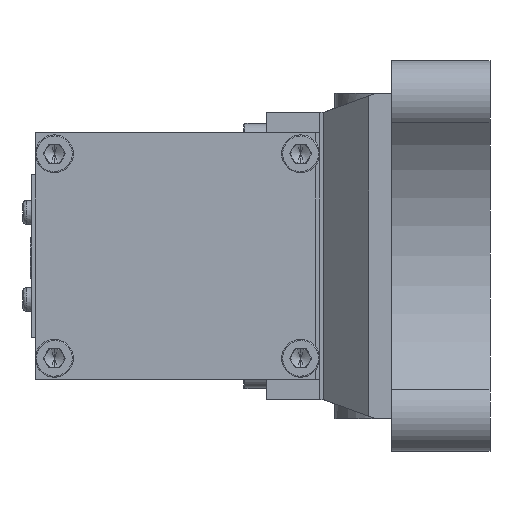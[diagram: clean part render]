
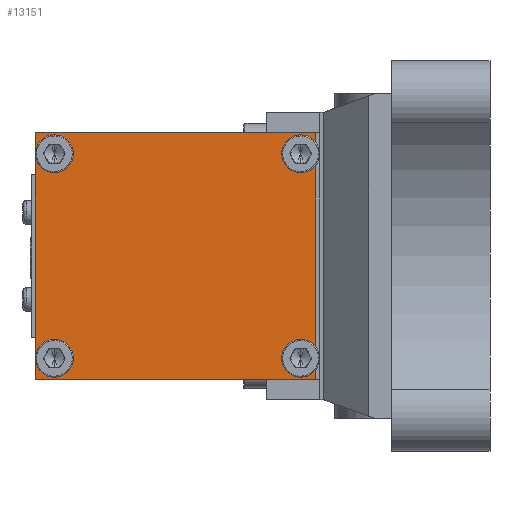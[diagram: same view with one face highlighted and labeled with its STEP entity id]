
A CAD part, left-side view. The second image highlights one B-rep face of the part: STEP entity #13151.
In plain terms, the highlighted planar face has unit normal (-1, 0, 0).
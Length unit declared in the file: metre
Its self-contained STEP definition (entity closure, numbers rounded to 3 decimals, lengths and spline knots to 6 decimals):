
#300 = AXIS2_PLACEMENT_3D ( 'NONE', #6741, #15967, #8044 ) ;
#584 = DIRECTION ( 'NONE',  ( 0., 0., 1. ) ) ;
#792 = EDGE_CURVE ( 'NONE', #11334, #11132, #8775, .T. ) ;
#1213 = PLANE ( 'NONE',  #10741 ) ;
#1514 = EDGE_CURVE ( 'NONE', #9291, #11307, #4152, .T. ) ;
#1604 = VERTEX_POINT ( 'NONE', #8329 ) ;
#1712 = CARTESIAN_POINT ( 'NONE',  ( 0.065, 0.039, -0.0325 ) ) ;
#2417 = CARTESIAN_POINT ( 'NONE',  ( 0.065, 0.002, 0.0325 ) ) ;
#2595 = DIRECTION ( 'NONE',  ( -1., 0., 0. ) ) ;
#2622 = EDGE_CURVE ( 'NONE', #7077, #5644, #8593, .T. ) ;
#2646 = EDGE_LOOP ( 'NONE', ( #8074, #6220 ) ) ;
#3354 = ORIENTED_EDGE ( 'NONE', *, *, #3937, .F. ) ;
#3527 = DIRECTION ( 'NONE',  ( -1., 0., 0. ) ) ;
#3740 = DIRECTION ( 'NONE',  ( -1., 0., 0. ) ) ;
#3755 = ORIENTED_EDGE ( 'NONE', *, *, #792, .F. ) ;
#3767 = DIRECTION ( 'NONE',  ( 0., 0., -1. ) ) ;
#3937 = EDGE_CURVE ( 'NONE', #10104, #12381, #13515, .T. ) ;
#4105 = CIRCLE ( 'NONE', #4854, 0.003 ) ;
#4148 = VECTOR ( 'NONE', #13250, 1. ) ;
#4152 = CIRCLE ( 'NONE', #9972, 0.003 ) ;
#4269 = CIRCLE ( 'NONE', #5838, 0.003 ) ;
#4744 = FACE_BOUND ( 'NONE', #15635, .T. ) ;
#4854 = AXIS2_PLACEMENT_3D ( 'NONE', #10214, #2595, #11542 ) ;
#4988 = ORIENTED_EDGE ( 'NONE', *, *, #15618, .F. ) ;
#5043 = DIRECTION ( 'NONE',  ( 0., -1., 0. ) ) ;
#5050 = CARTESIAN_POINT ( 'NONE',  ( 0.065, 0.071, 0.03 ) ) ;
#5390 = LINE ( 'NONE', #15944, #11914 ) ;
#5644 = VERTEX_POINT ( 'NONE', #14991 ) ;
#5838 = AXIS2_PLACEMENT_3D ( 'NONE', #13838, #5981, #15168 ) ;
#5854 = EDGE_CURVE ( 'NONE', #5644, #7077, #4105, .T. ) ;
#5896 = CIRCLE ( 'NONE', #9336, 0.003 ) ;
#5981 = DIRECTION ( 'NONE',  ( -1., 0., 0. ) ) ;
#6220 = ORIENTED_EDGE ( 'NONE', *, *, #1514, .F. ) ;
#6295 = CARTESIAN_POINT ( 'NONE',  ( 0.065, 0.002, 0. ) ) ;
#6401 = DIRECTION ( 'NONE',  ( 0., 0., -1. ) ) ;
#6634 = CARTESIAN_POINT ( 'NONE',  ( 0.065, 0.006, 0.027 ) ) ;
#6741 = CARTESIAN_POINT ( 'NONE',  ( 0.065, 0.006, 0.027 ) ) ;
#7028 = VECTOR ( 'NONE', #5043, 1. ) ;
#7077 = VERTEX_POINT ( 'NONE', #15931 ) ;
#7202 = CARTESIAN_POINT ( 'NONE',  ( 0.065, 0.071, 0.024 ) ) ;
#7372 = EDGE_CURVE ( 'NONE', #11307, #9291, #4269, .T. ) ;
#7431 = LINE ( 'NONE', #11519, #7028 ) ;
#7543 = LINE ( 'NONE', #1712, #4148 ) ;
#7549 = DIRECTION ( 'NONE',  ( 0., 0., -1. ) ) ;
#7624 = CARTESIAN_POINT ( 'NONE',  ( 0.065, 0.071, 0.027 ) ) ;
#7640 = DIRECTION ( 'NONE',  ( -1., 0., 0. ) ) ;
#7697 = CARTESIAN_POINT ( 'NONE',  ( 0.065, 0.071, -0.027 ) ) ;
#7710 = EDGE_CURVE ( 'NONE', #12208, #1604, #10905, .T. ) ;
#7771 = EDGE_CURVE ( 'NONE', #1604, #12208, #12781, .T. ) ;
#7786 = CARTESIAN_POINT ( 'NONE',  ( 0.065, 0.006, 0.024 ) ) ;
#7899 = VERTEX_POINT ( 'NONE', #16199 ) ;
#7927 = DIRECTION ( 'NONE',  ( 0., 0., -1. ) ) ;
#8044 = DIRECTION ( 'NONE',  ( 0., 0., -1. ) ) ;
#8074 = ORIENTED_EDGE ( 'NONE', *, *, #7372, .F. ) ;
#8156 = FACE_BOUND ( 'NONE', #13443, .T. ) ;
#8232 = EDGE_CURVE ( 'NONE', #9131, #11334, #7431, .T. ) ;
#8329 = CARTESIAN_POINT ( 'NONE',  ( 0.065, 0.006, 0.03 ) ) ;
#8370 = VECTOR ( 'NONE', #3767, 1. ) ;
#8429 = EDGE_CURVE ( 'NONE', #7899, #9131, #5390, .T. ) ;
#8593 = CIRCLE ( 'NONE', #13080, 0.003 ) ;
#8775 = LINE ( 'NONE', #6295, #8370 ) ;
#8826 = AXIS2_PLACEMENT_3D ( 'NONE', #11432, #3740, #12783 ) ;
#9131 = VERTEX_POINT ( 'NONE', #16446 ) ;
#9257 = ORIENTED_EDGE ( 'NONE', *, *, #7710, .F. ) ;
#9291 = VERTEX_POINT ( 'NONE', #5050 ) ;
#9336 = AXIS2_PLACEMENT_3D ( 'NONE', #11204, #3527, #12548 ) ;
#9456 = CARTESIAN_POINT ( 'NONE',  ( 0.065, 0.002, -0.0325 ) ) ;
#9713 = CARTESIAN_POINT ( 'NONE',  ( 0.065, 0.006, -0.03 ) ) ;
#9972 = AXIS2_PLACEMENT_3D ( 'NONE', #7624, #7640, #7549 ) ;
#10104 = VERTEX_POINT ( 'NONE', #14999 ) ;
#10214 = CARTESIAN_POINT ( 'NONE',  ( 0.065, 0.071, -0.027 ) ) ;
#10330 = EDGE_LOOP ( 'NONE', ( #3755, #14793, #12684, #13330 ) ) ;
#10741 = AXIS2_PLACEMENT_3D ( 'NONE', #2417, #12623, #11343 ) ;
#10905 = CIRCLE ( 'NONE', #15192, 0.003 ) ;
#11132 = VERTEX_POINT ( 'NONE', #9456 ) ;
#11204 = CARTESIAN_POINT ( 'NONE',  ( 0.065, 0.006, -0.027 ) ) ;
#11307 = VERTEX_POINT ( 'NONE', #7202 ) ;
#11334 = VERTEX_POINT ( 'NONE', #12346 ) ;
#11343 = DIRECTION ( 'NONE',  ( 0., 0., -1. ) ) ;
#11432 = CARTESIAN_POINT ( 'NONE',  ( 0.065, 0.006, -0.027 ) ) ;
#11519 = CARTESIAN_POINT ( 'NONE',  ( 0.065, 0.039, 0.0325 ) ) ;
#11542 = DIRECTION ( 'NONE',  ( 0., 0., -1. ) ) ;
#11630 = FACE_BOUND ( 'NONE', #2646, .T. ) ;
#11914 = VECTOR ( 'NONE', #584, 1. ) ;
#12208 = VERTEX_POINT ( 'NONE', #7786 ) ;
#12346 = CARTESIAN_POINT ( 'NONE',  ( 0.065, 0.002, 0.0325 ) ) ;
#12381 = VERTEX_POINT ( 'NONE', #9713 ) ;
#12548 = DIRECTION ( 'NONE',  ( 0., 0., -1. ) ) ;
#12623 = DIRECTION ( 'NONE',  ( 1., 0., 0. ) ) ;
#12684 = ORIENTED_EDGE ( 'NONE', *, *, #8429, .F. ) ;
#12781 = CIRCLE ( 'NONE', #300, 0.003 ) ;
#12783 = DIRECTION ( 'NONE',  ( 0., 0., -1. ) ) ;
#13080 = AXIS2_PLACEMENT_3D ( 'NONE', #7697, #15596, #6401 ) ;
#13151 = ADVANCED_FACE ( 'NONE', ( #11630, #4744, #8156, #15188, #14764 ), #1213, .F. ) ;
#13209 = ORIENTED_EDGE ( 'NONE', *, *, #7771, .F. ) ;
#13250 = DIRECTION ( 'NONE',  ( 0., 1., 0. ) ) ;
#13330 = ORIENTED_EDGE ( 'NONE', *, *, #13462, .F. ) ;
#13443 = EDGE_LOOP ( 'NONE', ( #9257, #13209 ) ) ;
#13462 = EDGE_CURVE ( 'NONE', #11132, #7899, #7543, .T. ) ;
#13478 = ORIENTED_EDGE ( 'NONE', *, *, #5854, .F. ) ;
#13515 = CIRCLE ( 'NONE', #8826, 0.003 ) ;
#13619 = EDGE_LOOP ( 'NONE', ( #4988, #3354 ) ) ;
#13630 = ORIENTED_EDGE ( 'NONE', *, *, #2622, .F. ) ;
#13838 = CARTESIAN_POINT ( 'NONE',  ( 0.065, 0.071, 0.027 ) ) ;
#14764 = FACE_OUTER_BOUND ( 'NONE', #10330, .T. ) ;
#14793 = ORIENTED_EDGE ( 'NONE', *, *, #8232, .F. ) ;
#14991 = CARTESIAN_POINT ( 'NONE',  ( 0.065, 0.071, -0.024 ) ) ;
#14999 = CARTESIAN_POINT ( 'NONE',  ( 0.065, 0.006, -0.024 ) ) ;
#15168 = DIRECTION ( 'NONE',  ( 0., 0., -1. ) ) ;
#15188 = FACE_BOUND ( 'NONE', #13619, .T. ) ;
#15192 = AXIS2_PLACEMENT_3D ( 'NONE', #6634, #15845, #7927 ) ;
#15596 = DIRECTION ( 'NONE',  ( -1., 0., 0. ) ) ;
#15618 = EDGE_CURVE ( 'NONE', #12381, #10104, #5896, .T. ) ;
#15635 = EDGE_LOOP ( 'NONE', ( #13630, #13478 ) ) ;
#15845 = DIRECTION ( 'NONE',  ( -1., 0., 0. ) ) ;
#15931 = CARTESIAN_POINT ( 'NONE',  ( 0.065, 0.071, -0.03 ) ) ;
#15944 = CARTESIAN_POINT ( 'NONE',  ( 0.065, 0.076, 0. ) ) ;
#15967 = DIRECTION ( 'NONE',  ( -1., 0., 0. ) ) ;
#16199 = CARTESIAN_POINT ( 'NONE',  ( 0.065, 0.076, -0.0325 ) ) ;
#16446 = CARTESIAN_POINT ( 'NONE',  ( 0.065, 0.076, 0.0325 ) ) ;
